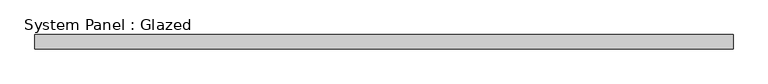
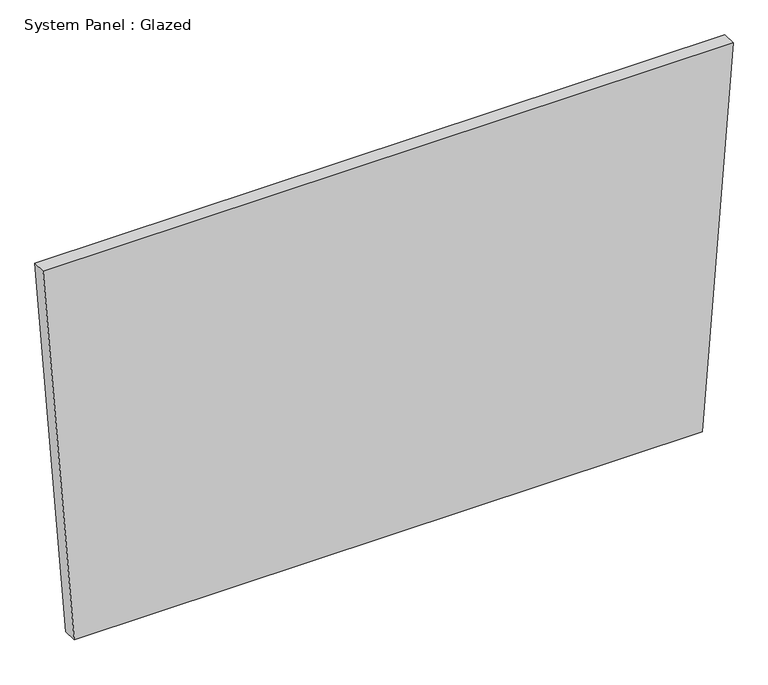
"""IFC4 building model written with IfcOpenShell, lengths in millimetres: plate geometry, System Panel : Glazed."""

from ifc_helpers import new_model, si_unit, frame, origin, place, context, project, spatial, polyline, outline, extrude, source, transform, mapped, element, save


def system_panel_glazed_928b8942(model_context):
    return source(origin(), model_context, "Body", "SweptSolid", [
        extrude(outline(polyline([(0.0, -567.0455428), (0.0, 567.0461051), (722.7235915, 623.1400111), (722.7308356, -623.1400111), (0.0, -567.0455428)])), frame((0.0, 19.05, 0.0), z_axis=(0.0, 1.0, 0.0), x_axis=(0.0, 0.0, 1.0)), (0.0, 0.0, 1.0), 25.4),
    ])


if __name__ == "__main__":
    model = new_model("IFC4")
    model_context = context("Model", 3, world=origin())
    ifc_project = project(units=[si_unit("LENGTHUNIT", "METRE", prefix="MILLI")], contexts=[model_context])
    site = spatial("IfcSite", under=ifc_project)
    building = spatial("IfcBuilding", under=site)
    placement = place(None, origin())
    system_panel_glazed_shape = system_panel_glazed_928b8942(model_context)
    element("IfcPlate", 1, ObjectType="System Panel : Glazed", at=placement, inside=building, context=model_context, shape_type="MappedRepresentation", body=[
        mapped(system_panel_glazed_shape, transform((0.0, 0.0, 0.0), x_axis=(1.0, 0.0, 0.0), y_axis=(0.0, 1.0, 0.0), z_axis=(0.0, 0.0, 1.0))),
    ])
    save(model, "model.ifc")
